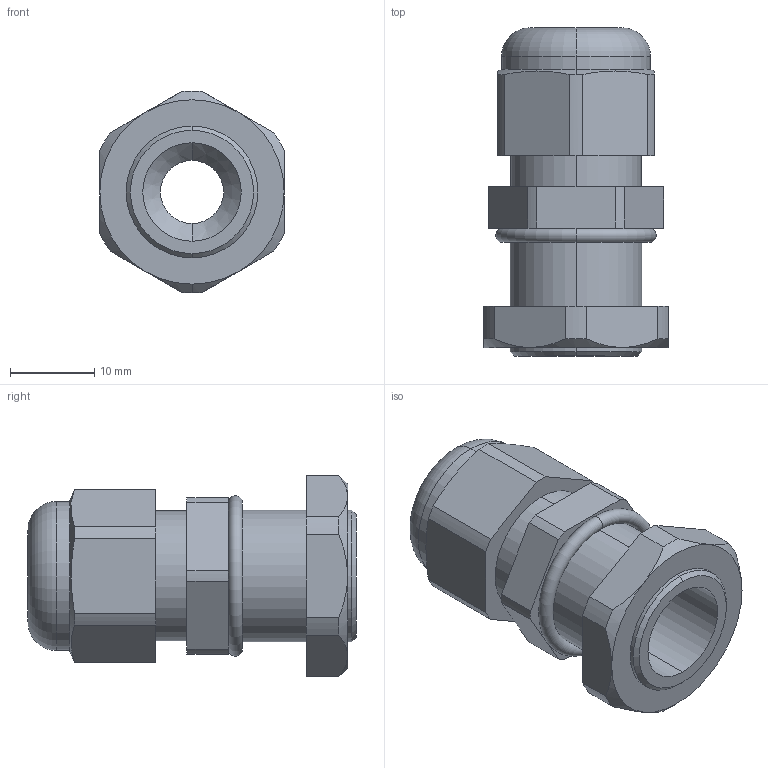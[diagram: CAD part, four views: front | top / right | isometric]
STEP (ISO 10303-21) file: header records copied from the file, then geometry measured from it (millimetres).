
FILE_DESCRIPTION (( 'STEP AP203' ), '1' );
FILE_NAME ('CH-M16L.STEP', '2018-02-07T14:46:53', ( '' ), ( '' ), 'SwSTEP 2.0', 'SolidWorks 2012', '' );
FILE_SCHEMA (( 'CONFIG_CONTROL_DESIGN' ));
Length unit declared in the file: millimetre
Products named in the file (1): CH-M16L
Bounding box: 21.9 x 39 x 23.99 mm (x, y, z)
Volume: 7057.4 mm3; surface area: 4646.5 mm2
Topology: 1 solids, 1 shells, 78 faces, 189 edges, 118 vertices
Faces by surface type: cylinder 34, plane 25, cone 15, torus 4
Entity records: 2438 total; most frequent: CARTESIAN_POINT 492, DIRECTION 415, ORIENTED_EDGE 378, EDGE_CURVE 189, AXIS2_PLACEMENT_3D 165, VERTEX_POINT 118, CIRCLE 86, LINE 85
